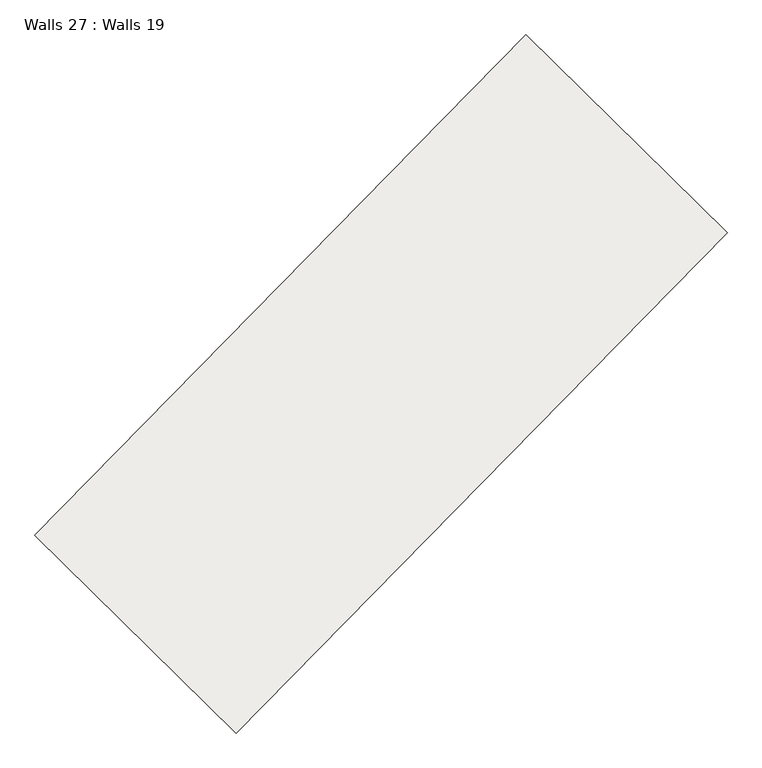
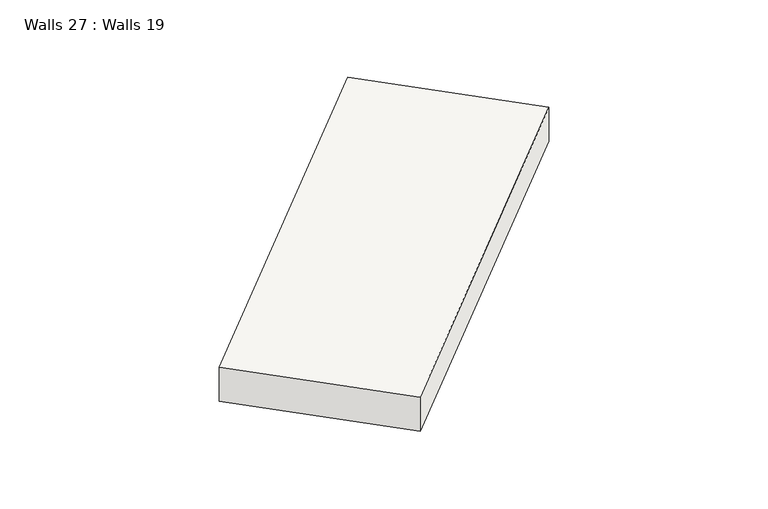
"""IFC4 building model written with IfcOpenShell, lengths in millimetres: slab geometry, Walls 27 : Walls 19."""

from ifc_helpers import new_model, si_unit, frame, origin, place, context, project, spatial, polyline, outline, extrude, source, transform, mapped, element, save


def walls_27_walls_19_8a30a7b7(model_context):
    return source(origin(), model_context, "Body", "SweptSolid", [
        extrude(outline(polyline([(-350.0, 0.0), (350.0, 0.0), (280.0, -8700.0001606), (-420.0, -8700.0001606), (-350.0, 0.0)])), frame((-225487.7342397, -388973.3410206, 635180.0), z_axis=(-0.7136987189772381, 0.7004528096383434, 0.0), x_axis=(0.0, 0.0, 1.0)), (0.0, 0.0, 1.0), 3500.0),
    ])


if __name__ == "__main__":
    model = new_model("IFC4")
    model_context = context("Model", 3, world=origin())
    ifc_project = project(units=[si_unit("LENGTHUNIT", "METRE", prefix="MILLI")], contexts=[model_context])
    site = spatial("IfcSite", under=ifc_project)
    building = spatial("IfcBuilding", under=site)
    placement = place(None, origin())
    walls_27_walls_19_shape = walls_27_walls_19_8a30a7b7(model_context)
    element("IfcSlab", 1, ObjectType="Walls 27 : Walls 19", at=placement, inside=building, context=model_context, shape_type="MappedRepresentation", body=[
        mapped(walls_27_walls_19_shape, transform((0.0, 0.0, 0.0), x_axis=(1.0, 0.0, 0.0), y_axis=(0.0, 1.0, 0.0), z_axis=(0.0, 0.0, 1.0))),
    ])
    save(model, "model.ifc")
